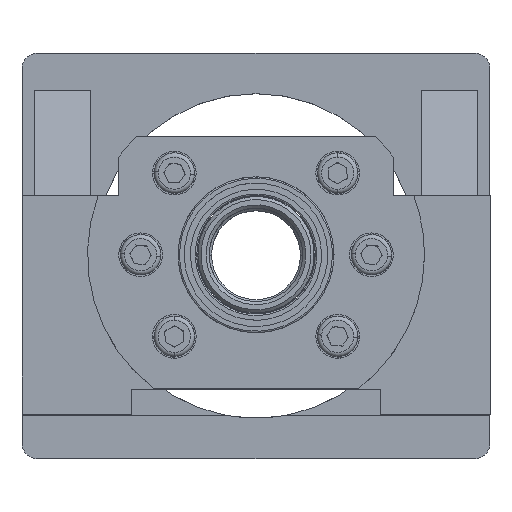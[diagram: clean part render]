
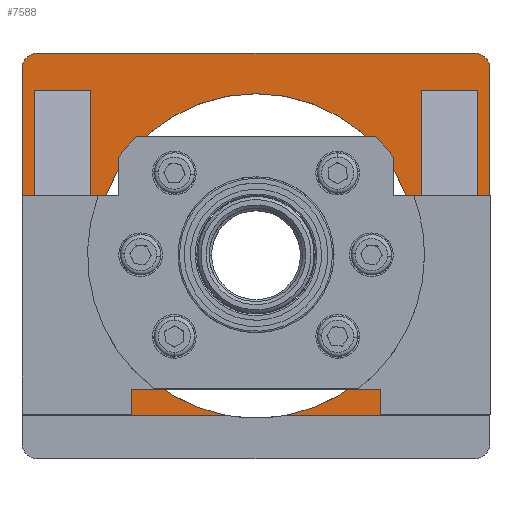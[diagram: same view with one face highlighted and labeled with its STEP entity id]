
A CAD part, top view. The second image highlights one B-rep face of the part: STEP entity #7588.
In plain terms, the highlighted planar face has unit normal (0, 0, 1).
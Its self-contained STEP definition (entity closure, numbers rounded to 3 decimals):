
#12 = DIRECTION ( 'NONE',  ( 0., -1., 0. ) ) ;
#17 = DIRECTION ( 'NONE',  ( 1., 0., 0. ) ) ;
#81 = FACE_BOUND ( 'NONE', #3974, .T. ) ;
#116 = VERTEX_POINT ( 'NONE', #4950 ) ;
#267 = CARTESIAN_POINT ( 'NONE',  ( 53., -51., 22. ) ) ;
#303 = CARTESIAN_POINT ( 'NONE',  ( 75., 60., 22. ) ) ;
#438 = CARTESIAN_POINT ( 'NONE',  ( -71., -51., 22. ) ) ;
#485 = CARTESIAN_POINT ( 'NONE',  ( -53., 17., 22. ) ) ;
#730 = LINE ( 'NONE', #6302, #11650 ) ;
#775 = DIRECTION ( 'NONE',  ( -1., 0., 0. ) ) ;
#814 = EDGE_LOOP ( 'NONE', ( #9613, #12756, #4965, #2839, #3184, #7234, #1967, #10396, #5095, #8230 ) ) ;
#817 = DIRECTION ( 'NONE',  ( 0., 0., 1. ) ) ;
#947 = DIRECTION ( 'NONE',  ( 0., 0., 1. ) ) ;
#952 = VECTOR ( 'NONE', #3797, 1000. ) ;
#983 = VECTOR ( 'NONE', #9955, 1000. ) ;
#1007 = LINE ( 'NONE', #11399, #9084 ) ;
#1006 = DIRECTION ( 'NONE',  ( 1., 0., 0. ) ) ;
#1131 = CARTESIAN_POINT ( 'NONE',  ( -71., 17., 22. ) ) ;
#1268 = LINE ( 'NONE', #6958, #952 ) ;
#1281 = DIRECTION ( 'NONE',  ( 1., 0., 0. ) ) ;
#1456 = EDGE_CURVE ( 'NONE', #10138, #9908, #1007, .T. ) ;
#1563 = LINE ( 'NONE', #2919, #12465 ) ;
#1734 = CIRCLE ( 'NONE', #2251, 5. ) ;
#1767 = CARTESIAN_POINT ( 'NONE',  ( -71., 53., 22. ) ) ;
#1889 = VECTOR ( 'NONE', #12, 1000. ) ;
#1922 = VERTEX_POINT ( 'NONE', #3240 ) ;
#1967 = ORIENTED_EDGE ( 'NONE', *, *, #5923, .T. ) ;
#2070 = CARTESIAN_POINT ( 'NONE',  ( -76.047, -51.01, 22. ) ) ;
#2139 = ORIENTED_EDGE ( 'NONE', *, *, #4631, .F. ) ;
#2184 = AXIS2_PLACEMENT_3D ( 'NONE', #3492, #10870, #4531 ) ;
#2216 = LINE ( 'NONE', #1131, #1889 ) ;
#2240 = CARTESIAN_POINT ( 'NONE',  ( -75., 65., 22. ) ) ;
#2251 = AXIS2_PLACEMENT_3D ( 'NONE', #11493, #5150, #12550 ) ;
#2521 = DIRECTION ( 'NONE',  ( 0., -1., 0. ) ) ;
#2556 = VECTOR ( 'NONE', #7485, 1000. ) ;
#2691 = VERTEX_POINT ( 'NONE', #9386 ) ;
#2767 = CIRCLE ( 'NONE', #13577, 5. ) ;
#2839 = ORIENTED_EDGE ( 'NONE', *, *, #10211, .F. ) ;
#2919 = CARTESIAN_POINT ( 'NONE',  ( -75., 53., 22. ) ) ;
#2954 = DIRECTION ( 'NONE',  ( 1., 0., 0. ) ) ;
#2996 = EDGE_CURVE ( 'NONE', #8101, #11203, #4772, .T. ) ;
#3037 = EDGE_CURVE ( 'NONE', #10540, #11625, #4137, .T. ) ;
#3100 = CARTESIAN_POINT ( 'NONE',  ( 0., 0., 22. ) ) ;
#3184 = ORIENTED_EDGE ( 'NONE', *, *, #1456, .T. ) ;
#3240 = CARTESIAN_POINT ( 'NONE',  ( -70., 65., 22. ) ) ;
#3322 = EDGE_LOOP ( 'NONE', ( #11048, #11712, #6414, #13038 ) ) ;
#3405 = CARTESIAN_POINT ( 'NONE',  ( -52., 0., 22. ) ) ;
#3492 = CARTESIAN_POINT ( 'NONE',  ( 0., 0., 22. ) ) ;
#3560 = EDGE_CURVE ( 'NONE', #8556, #10540, #7243, .T. ) ;
#3598 = CARTESIAN_POINT ( 'NONE',  ( -75., 65., 22. ) ) ;
#3661 = AXIS2_PLACEMENT_3D ( 'NONE', #3100, #10469, #4143 ) ;
#3797 = DIRECTION ( 'NONE',  ( 0., 1., 0. ) ) ;
#3965 = CARTESIAN_POINT ( 'NONE',  ( -53., -51., 22. ) ) ;
#3974 = EDGE_LOOP ( 'NONE', ( #2139, #8059, #8404, #12213 ) ) ;
#4137 = LINE ( 'NONE', #4237, #6910 ) ;
#4143 = DIRECTION ( 'NONE',  ( 1., 0., 0. ) ) ;
#4237 = CARTESIAN_POINT ( 'NONE',  ( -75., 53., 22. ) ) ;
#4284 = VERTEX_POINT ( 'NONE', #11968 ) ;
#4412 = DIRECTION ( 'NONE',  ( 0., 0., 1. ) ) ;
#4531 = DIRECTION ( 'NONE',  ( 1., 0., 0. ) ) ;
#4547 = EDGE_CURVE ( 'NONE', #10145, #11203, #4728, .T. ) ;
#4631 = EDGE_CURVE ( 'NONE', #9076, #9961, #12075, .T. ) ;
#4691 = FACE_BOUND ( 'NONE', #3322, .T. ) ;
#4728 = CIRCLE ( 'NONE', #9666, 52. ) ;
#4772 = LINE ( 'NONE', #2070, #12565 ) ;
#4950 = CARTESIAN_POINT ( 'NONE',  ( 52., 0., 22. ) ) ;
#4965 = ORIENTED_EDGE ( 'NONE', *, *, #7995, .F. ) ;
#5038 = VERTEX_POINT ( 'NONE', #10619 ) ;
#5095 = ORIENTED_EDGE ( 'NONE', *, *, #7972, .T. ) ;
#5150 = DIRECTION ( 'NONE',  ( 0., 0., 1. ) ) ;
#5287 = DIRECTION ( 'NONE',  ( -1., 0., 0. ) ) ;
#5421 = CARTESIAN_POINT ( 'NONE',  ( -75., -65., 22. ) ) ;
#5681 = CARTESIAN_POINT ( 'NONE',  ( -75., 60., 22. ) ) ;
#5846 = EDGE_CURVE ( 'NONE', #9908, #13499, #9028, .T. ) ;
#5923 = EDGE_CURVE ( 'NONE', #13499, #4284, #2767, .T. ) ;
#6302 = CARTESIAN_POINT ( 'NONE',  ( -71., -51., 22. ) ) ;
#6311 = CARTESIAN_POINT ( 'NONE',  ( 71., -51., 22. ) ) ;
#6414 = ORIENTED_EDGE ( 'NONE', *, *, #3037, .F. ) ;
#6483 = VERTEX_POINT ( 'NONE', #438 ) ;
#6655 = CIRCLE ( 'NONE', #3661, 52. ) ;
#6771 = VECTOR ( 'NONE', #7646, 1000. ) ;
#6910 = VECTOR ( 'NONE', #5287, 1000. ) ;
#6958 = CARTESIAN_POINT ( 'NONE',  ( 53., 17., 22. ) ) ;
#7125 = CARTESIAN_POINT ( 'NONE',  ( 70., 60., 22. ) ) ;
#7177 = CARTESIAN_POINT ( 'NONE',  ( 53., -51., 22. ) ) ;
#7234 = ORIENTED_EDGE ( 'NONE', *, *, #5846, .T. ) ;
#7243 = LINE ( 'NONE', #485, #983 ) ;
#7246 = CARTESIAN_POINT ( 'NONE',  ( 0., 0., 22. ) ) ;
#7485 = DIRECTION ( 'NONE',  ( 0., -1., 0. ) ) ;
#7588 = ADVANCED_FACE ( 'NONE', ( #7829, #4691, #81 ), #12876, .T. ) ;
#7633 = LINE ( 'NONE', #3598, #13630 ) ;
#7646 = DIRECTION ( 'NONE',  ( 1., 0., 0. ) ) ;
#7668 = LINE ( 'NONE', #12116, #11829 ) ;
#7829 = FACE_OUTER_BOUND ( 'NONE', #814, .T. ) ;
#7972 = EDGE_CURVE ( 'NONE', #1922, #10301, #1734, .T. ) ;
#7995 = EDGE_CURVE ( 'NONE', #116, #10145, #6655, .T. ) ;
#8059 = ORIENTED_EDGE ( 'NONE', *, *, #9658, .T. ) ;
#8090 = EDGE_CURVE ( 'NONE', #6483, #8556, #730, .T. ) ;
#8101 = VERTEX_POINT ( 'NONE', #10604 ) ;
#8180 = EDGE_CURVE ( 'NONE', #10301, #8101, #10655, .T. ) ;
#8193 = DIRECTION ( 'NONE',  ( 1., 0., 0. ) ) ;
#8230 = ORIENTED_EDGE ( 'NONE', *, *, #8180, .T. ) ;
#8314 = DIRECTION ( 'NONE',  ( 1., 0., 0. ) ) ;
#8404 = ORIENTED_EDGE ( 'NONE', *, *, #13239, .F. ) ;
#8556 = VERTEX_POINT ( 'NONE', #3965 ) ;
#8832 = CARTESIAN_POINT ( 'NONE',  ( 75., 65., 22. ) ) ;
#9010 = CIRCLE ( 'NONE', #2184, 52. ) ;
#9028 = LINE ( 'NONE', #8832, #11190 ) ;
#9076 = VERTEX_POINT ( 'NONE', #7177 ) ;
#9084 = VECTOR ( 'NONE', #2954, 1000. ) ;
#9204 = CARTESIAN_POINT ( 'NONE',  ( -53., 53., 22. ) ) ;
#9386 = CARTESIAN_POINT ( 'NONE',  ( 71., 53., 22. ) ) ;
#9613 = ORIENTED_EDGE ( 'NONE', *, *, #2996, .T. ) ;
#9658 = EDGE_CURVE ( 'NONE', #9076, #5038, #1268, .T. ) ;
#9666 = AXIS2_PLACEMENT_3D ( 'NONE', #7246, #947, #8314 ) ;
#9728 = CARTESIAN_POINT ( 'NONE',  ( 10.099, -51.01, 22. ) ) ;
#9908 = VERTEX_POINT ( 'NONE', #12673 ) ;
#9935 = DIRECTION ( 'NONE',  ( -1., 0., 0. ) ) ;
#9955 = DIRECTION ( 'NONE',  ( 0., 1., 0. ) ) ;
#9961 = VERTEX_POINT ( 'NONE', #6311 ) ;
#10138 = VERTEX_POINT ( 'NONE', #9728 ) ;
#10145 = VERTEX_POINT ( 'NONE', #3405 ) ;
#10211 = EDGE_CURVE ( 'NONE', #10138, #116, #9010, .T. ) ;
#10301 = VERTEX_POINT ( 'NONE', #5681 ) ;
#10350 = EDGE_CURVE ( 'NONE', #2691, #9961, #7668, .T. ) ;
#10396 = ORIENTED_EDGE ( 'NONE', *, *, #13019, .T. ) ;
#10469 = DIRECTION ( 'NONE',  ( 0., 0., 1. ) ) ;
#10540 = VERTEX_POINT ( 'NONE', #9204 ) ;
#10570 = AXIS2_PLACEMENT_3D ( 'NONE', #5421, #4412, #1281 ) ;
#10604 = CARTESIAN_POINT ( 'NONE',  ( -75., -51.01, 22. ) ) ;
#10619 = CARTESIAN_POINT ( 'NONE',  ( 53., 53., 22. ) ) ;
#10655 = LINE ( 'NONE', #2240, #2556 ) ;
#10870 = DIRECTION ( 'NONE',  ( 0., 0., 1. ) ) ;
#11048 = ORIENTED_EDGE ( 'NONE', *, *, #8090, .F. ) ;
#11190 = VECTOR ( 'NONE', #12309, 1000. ) ;
#11203 = VERTEX_POINT ( 'NONE', #13685 ) ;
#11399 = CARTESIAN_POINT ( 'NONE',  ( -76.047, -51.01, 22. ) ) ;
#11493 = CARTESIAN_POINT ( 'NONE',  ( -70., 60., 22. ) ) ;
#11625 = VERTEX_POINT ( 'NONE', #1767 ) ;
#11650 = VECTOR ( 'NONE', #17, 1000. ) ;
#11712 = ORIENTED_EDGE ( 'NONE', *, *, #11756, .F. ) ;
#11756 = EDGE_CURVE ( 'NONE', #11625, #6483, #2216, .T. ) ;
#11829 = VECTOR ( 'NONE', #2521, 1000. ) ;
#11968 = CARTESIAN_POINT ( 'NONE',  ( 70., 65., 22. ) ) ;
#12075 = LINE ( 'NONE', #267, #6771 ) ;
#12116 = CARTESIAN_POINT ( 'NONE',  ( 71., 17., 22. ) ) ;
#12213 = ORIENTED_EDGE ( 'NONE', *, *, #10350, .T. ) ;
#12309 = DIRECTION ( 'NONE',  ( 0., 1., 0. ) ) ;
#12465 = VECTOR ( 'NONE', #775, 1000. ) ;
#12550 = DIRECTION ( 'NONE',  ( 1., 0., 0. ) ) ;
#12565 = VECTOR ( 'NONE', #1006, 1000. ) ;
#12673 = CARTESIAN_POINT ( 'NONE',  ( 75., -51.01, 22. ) ) ;
#12756 = ORIENTED_EDGE ( 'NONE', *, *, #4547, .F. ) ;
#12876 = PLANE ( 'NONE',  #10570 ) ;
#13019 = EDGE_CURVE ( 'NONE', #4284, #1922, #7633, .T. ) ;
#13038 = ORIENTED_EDGE ( 'NONE', *, *, #3560, .F. ) ;
#13239 = EDGE_CURVE ( 'NONE', #2691, #5038, #1563, .T. ) ;
#13499 = VERTEX_POINT ( 'NONE', #303 ) ;
#13577 = AXIS2_PLACEMENT_3D ( 'NONE', #7125, #817, #8193 ) ;
#13630 = VECTOR ( 'NONE', #9935, 1000. ) ;
#13685 = CARTESIAN_POINT ( 'NONE',  ( -10.099, -51.01, 22. ) ) ;
